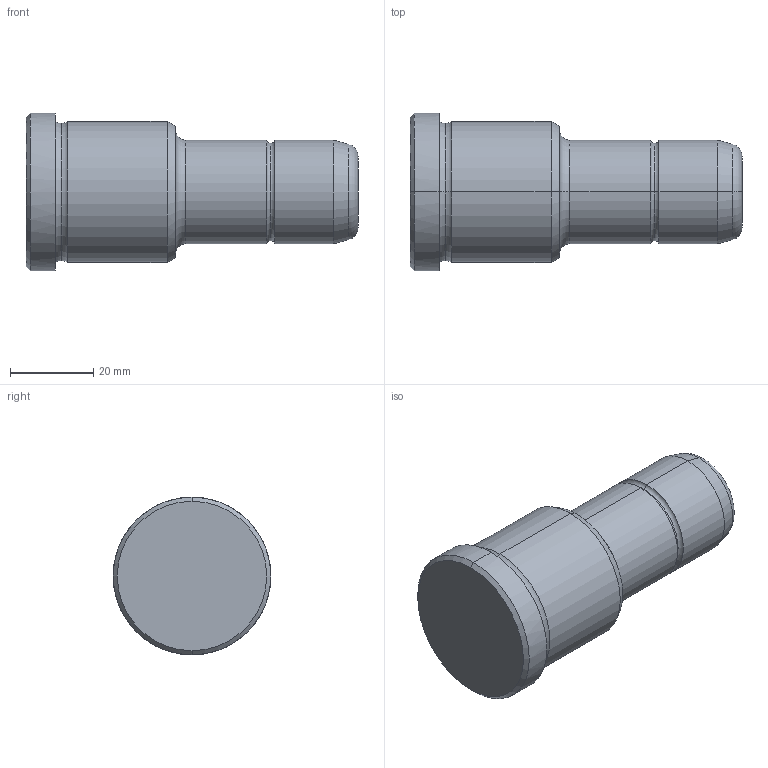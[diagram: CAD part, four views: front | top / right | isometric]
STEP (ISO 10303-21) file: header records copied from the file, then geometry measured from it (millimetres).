
FILE_DESCRIPTION(('CATIA V5 STEP Exchange'),'2;1');
FILE_NAME('C:\Users\Utente\Desktop\IO LAVORO\3D X SITO CF\X SITO\PLASTICA\351\351-25X36X80.stp','2021-08-28T09:21:29+00:00',('none'),('none'),'CATIA Version 5 Release 20 GA (IN-10)','CATIA V5 STEP AP203','none');
FILE_SCHEMA(('CONFIG_CONTROL_DESIGN'));
Length unit declared in the file: millimetre
Products named in the file (1): 351-25X36X80
Bounding box: 80 x 38 x 38 mm (x, y, z)
Volume: 55169.1 mm3; surface area: 9296 mm2
Topology: 1 solids, 1 shells, 30 faces, 86 edges, 60 vertices
Faces by surface type: torus 12, cylinder 8, cone 6, plane 4
Entity records: 1112 total; most frequent: CARTESIAN_POINT 289, ORIENTED_EDGE 172, DIRECTION 138, AXIS2_PLACEMENT_3D 95, EDGE_CURVE 86, CIRCLE 64, VERTEX_POINT 60, EDGE_LOOP 32
